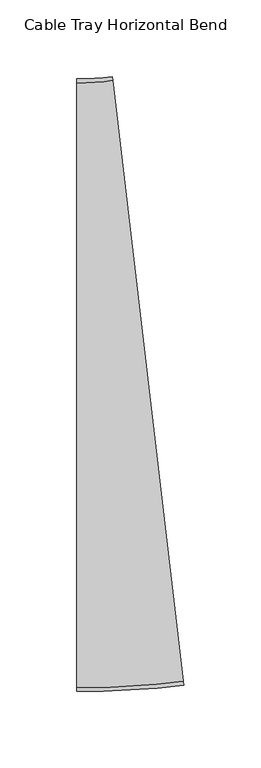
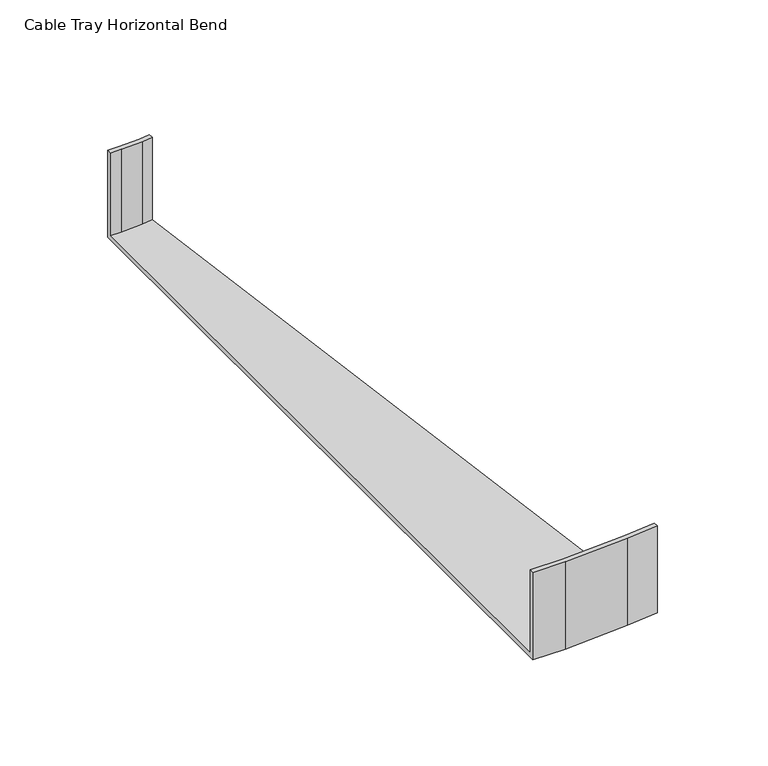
"""IFC4 building model written with IfcOpenShell, lengths in millimetres: cable carrier fitting geometry, Cable Tray Horizontal Bend : ELEC_SUB_CT_N2402."""

from ifc_helpers import new_model, si_unit, origin, place, context, project, spatial, faceted_brep, source, transform, mapped, element, save


def cable_tray_horizontal_bend_bd9ec753(model_context):
    return source(origin(), model_context, "Body", "Brep", [
        faceted_brep([(-23.4442681, -200.0, -25.0), (-23.4442681, -200.0, 25.0), (-23.4442681, -197.46, 25.0), (-23.4442681, -197.46, -22.46), (-23.4442681, 197.46, -22.46), (-23.4442681, 197.46, 25.0), (-23.4442681, 200.0, 25.0), (-23.4442681, 200.0, -25.0), (46.6477553, -195.8918595, -25.0), (-0.0802603, 201.3693802, -25.0), (-0.0802603, 201.3693802, 25.0), (0.2164626, 198.8467713, 25.0), (0.2164626, 198.8467713, -22.46), (46.3510324, -193.3692507, -22.46), (46.3510324, -193.3692507, 25.0), (46.6477553, -195.8918595, 25.0), (-5.8761416, -200.0, -25.0), (-5.8761416, -200.0, 25.0), (29.1999161, -197.9441687, 25.0), (28.9770557, -195.4128718, 25.0), (-5.9505134, -197.46, 25.0), (-5.9505134, -197.46, -22.46), (28.9770557, -195.4128718, -22.46), (-5.6733463, 198.1539801, -22.46), (-17.5138542, 197.46, -22.46), (-17.5138542, 197.46, 25.0), (-5.6733463, 198.1539801, 25.0), (-5.8962067, 200.6852771, 25.0), (-17.5882259, 200.0, 25.0), (-17.5882259, 200.0, -25.0), (-5.8962067, 200.6852771, -25.0), (29.1999161, -197.9441687, -25.0)], [[[0, 1, 2, 3, 4, 5, 6, 7]], [[8, 9, 10, 11, 12, 13, 14, 15]], [[1, 0, 16, 17]], [[2, 1, 17, 18, 15, 14, 19, 20]], [[3, 2, 20, 21]], [[4, 3, 21, 22, 13, 12, 23, 24]], [[5, 4, 24, 25]], [[6, 5, 25, 26, 11, 10, 27, 28]], [[7, 6, 28, 29]], [[0, 7, 29, 30, 9, 8, 31, 16]], [[17, 16, 31, 18]], [[21, 20, 19, 22]], [[25, 24, 23, 26]], [[29, 28, 27, 30]], [[18, 31, 8, 15]], [[22, 19, 14, 13]], [[26, 23, 12, 11]], [[30, 27, 10, 9]]]),
    ])


if __name__ == "__main__":
    model = new_model("IFC4")
    model_context = context("Model", 3, world=origin())
    ifc_project = project(units=[si_unit("LENGTHUNIT", "METRE", prefix="MILLI")], contexts=[model_context])
    site = spatial("IfcSite", under=ifc_project)
    building = spatial("IfcBuilding", under=site)
    placement = place(None, origin())
    cable_tray_horizontal_bend_shape = cable_tray_horizontal_bend_bd9ec753(model_context)
    element("IfcCableCarrierFitting", 1, ObjectType="Cable Tray Horizontal Bend : ELEC_SUB_CT_N2402", at=placement, inside=building, context=model_context, shape_type="MappedRepresentation", body=[
        mapped(cable_tray_horizontal_bend_shape, transform((0.0, 0.0, 0.0), x_axis=(1.0, 0.0, 0.0), y_axis=(0.0, 1.0, 0.0), z_axis=(0.0, 0.0, 1.0))),
    ])
    save(model, "model.ifc")
